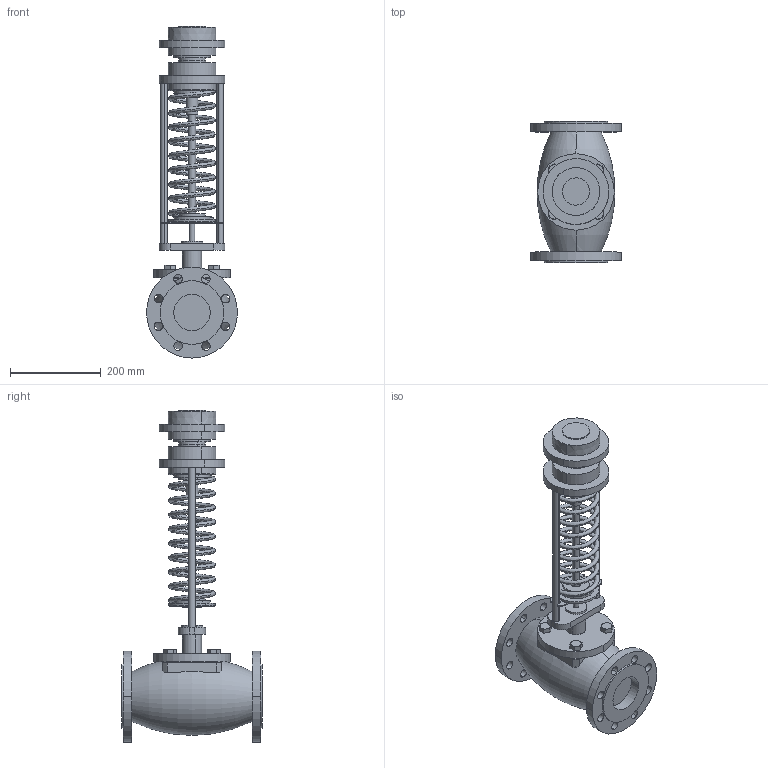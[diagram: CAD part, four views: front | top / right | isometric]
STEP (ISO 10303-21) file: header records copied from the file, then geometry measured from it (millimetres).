
FILE_DESCRIPTION (( 'STEP AP214' ), '1' );
FILE_NAME ('RDT-S, RDT-B DN-80 (0.1).STEP', '2025-12-12T09:29:16', ( '' ), ( '' ), 'SwSTEP 2.0', 'SolidWorks 2023', '' );
FILE_SCHEMA (( 'AUTOMOTIVE_DESIGN' ));
Length unit declared in the file: millimetre
Products named in the file (1): RDT-S, RDT-B DN-80 (0.1)
Bounding box: 200 x 310 x 730 mm (x, y, z)
Volume: 8381380.8 mm3; surface area: 613662.5 mm2
Topology: 1 solids, 2 shells, 271 faces, 652 edges, 417 vertices
Faces by surface type: cylinder 128, plane 93, cone 46, bspline 2, torus 2
Entity records: 11662 total; most frequent: CARTESIAN_POINT 5078, DIRECTION 1444, ORIENTED_EDGE 1304, EDGE_CURVE 652, AXIS2_PLACEMENT_3D 598, VERTEX_POINT 417, EDGE_LOOP 351, CIRCLE 328
